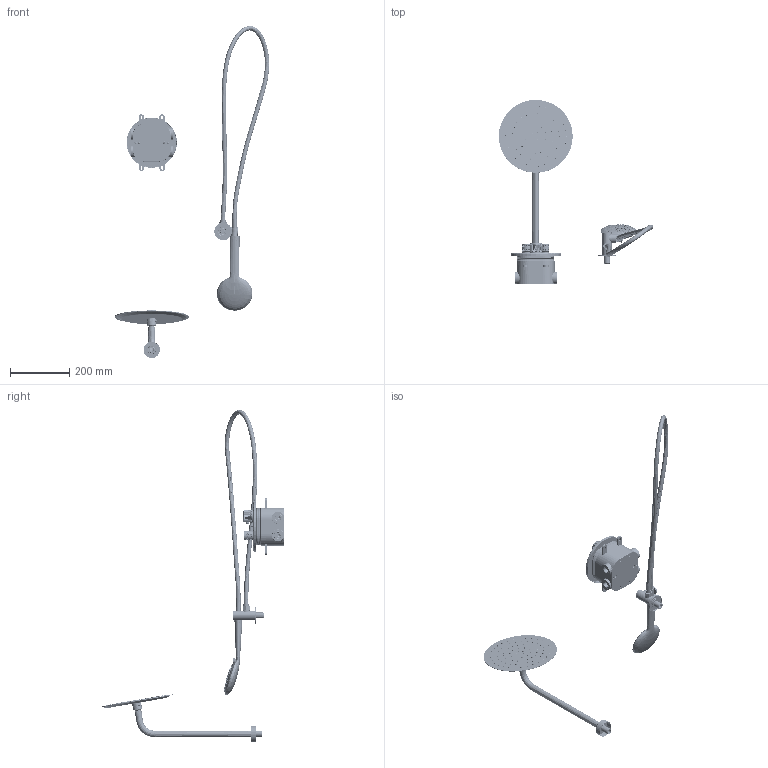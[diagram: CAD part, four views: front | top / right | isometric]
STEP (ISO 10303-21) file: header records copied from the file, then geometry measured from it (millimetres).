
FILE_DESCRIPTION((''),'2;1');
FILE_NAME('14628_ASM','2023-04-17T',('Administrator'),(''),'PRO/ENGINEER BY PARAMETRIC TECHNOLOGY CORPORATION, 2015240','PRO/ENGINEER BY PARAMETRIC TECHNOLOGY CORPORATION, 2015240','');
FILE_SCHEMA(('CONFIG_CONTROL_DESIGN'));
Products named in the file (77): 5655657-0122SX; 60712300; 5655657-0600; 61603941; 7652015-0100; 7652015-0200; 61504342; 7652015-0512; 7652015-0400; 7652015-0322; 61506842; 61514242; 61508042; 65201500_ASM; 60725141; 5655657-1122; 5655657-1022; 5655657-1541; 61633941; 5655657-1200; 60937700; 5655657-1341; 61515042; 5655657-0922; 5655657-0822; 61104712; 5655657-0700-861; 61202312; 5655657-0700-860; 7609376-01-100; 7609376-01-200; 7609224-0421; 7609234-0322; 7609376-0100_ASM; 61100112; 61800800; 61633541; 60937600_ASM; 5655657-1422SX; 61515442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
Assembly tree (116 placements, depth 5):
  14628_ASM
    65565700_ASM
      5655657-0122SX
      60712300
      5655657-0600
      61603941
      65201500_ASM  x2
        7652015-0100
        7652015-0200
        61504342
        7652015-0512
        7652015-0400
        7652015-0322
        61506842
        61514242
        61508042
      60725141  x2
      5655657-1122  x2
      5655657-1022  x2
      5655657-1541  x2
      61633941  x4
      5655657-1200  x2
      60937700  x2
      5655657-1341  x2
      61515042  x2
      5655657-0922  x2
      5655657-0822  x2
      61104712  x2
      5655657-0700-861
      61202312  x2
      5655657-0700-860
      60937600_ASM
        7609376-0100_ASM
          7609376-01-100
          7609376-01-200
          7609224-0421
          7609234-0322
        61100112
        61800800
        61633541
      5655657-1422SX
      61515442
      61634442  x4
      5655657-0222SX
      61111012  x4
      5655657-0341_ASM
        5655657-03-241
        5655657-03-141
        61620742B
        61620742R
        61620742  x2
        61102512  x6
        61108612  x2
        5655657-03-341
      61101612  x2
      5655657-0441
      5655657-0542  x2
      61812700  x4
      61102212  x4
      61111212
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Bounding box: 521.98 x 623.53 x 1121.65 mm (x, y, z)
Volume: 1580819.9 mm3; surface area: 1063377.2 mm2
Topology: 177 solids, 234 shells, 21777 faces, 51801 edges, 32670 vertices
Faces by surface type: bspline 7661, cylinder 6634, plane 4075, cone 1819, torus 1415, sphere 136, revolution 35, extrusion 2
Entity records: 1061478 total; most frequent: CARTESIAN_POINT 727311, ORIENTED_EDGE 76106, DIRECTION 52428, EDGE_CURVE 38135, VERTEX_POINT 23163, AXIS2_PLACEMENT_3D 20835, EDGE_LOOP 19999, B_SPLINE_CURVE_WITH_KNOTS 17237
